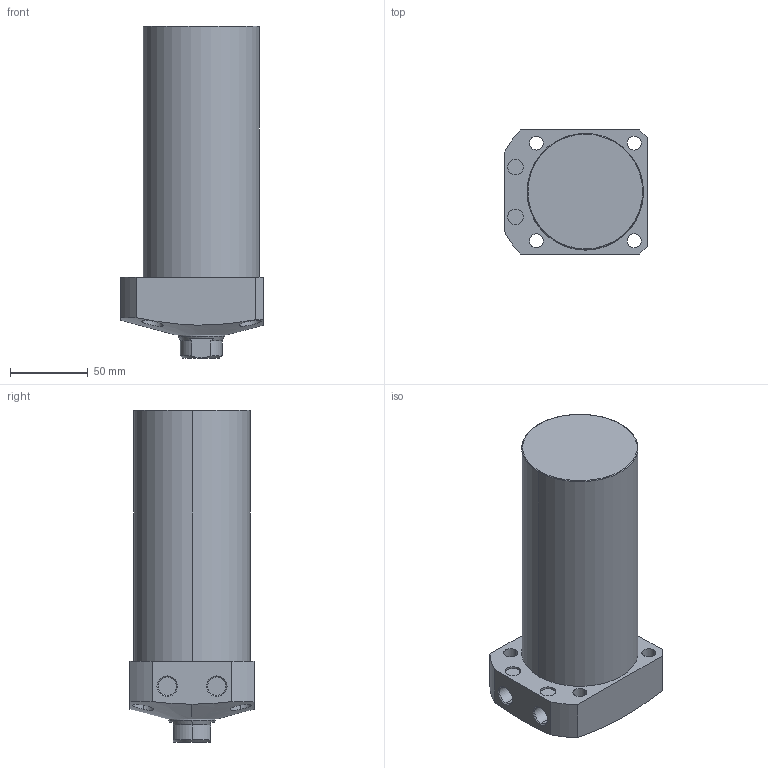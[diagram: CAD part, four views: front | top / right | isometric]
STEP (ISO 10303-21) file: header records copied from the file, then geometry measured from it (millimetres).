
FILE_DESCRIPTION (( 'STEP AP203' ), '1' );
FILE_NAME ('CLL-075CA-125.STEP', '2019-12-23T08:52:01', ( '' ), ( '' ), 'SwSTEP 2.0', 'SolidWorks 2015', '' );
FILE_SCHEMA (( 'CONFIG_CONTROL_DESIGN' ));
Length unit declared in the file: millimetre
Products named in the file (1): CLL-075CA-125
Bounding box: 92 x 80 x 214 mm (x, y, z)
Volume: 934752.1 mm3; surface area: 70504.7 mm2
Topology: 1 solids, 1 shells, 74 faces, 171 edges, 108 vertices
Faces by surface type: cylinder 35, plane 22, cone 15, torus 2
Entity records: 2610 total; most frequent: CARTESIAN_POINT 815, DIRECTION 376, ORIENTED_EDGE 338, EDGE_CURVE 169, AXIS2_PLACEMENT_3D 156, VERTEX_POINT 108, EDGE_LOOP 93, CIRCLE 81
